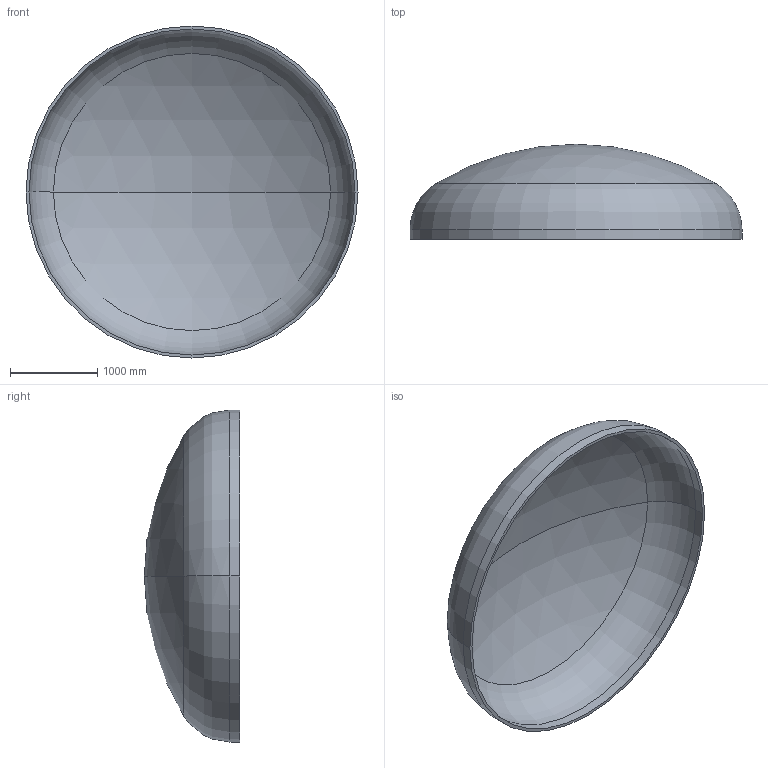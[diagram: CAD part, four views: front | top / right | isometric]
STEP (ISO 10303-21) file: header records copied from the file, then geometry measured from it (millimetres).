
FILE_DESCRIPTION (( 'STEP AP203' ), '1' );
FILE_NAME ('DIN 28013 Korbbogenform_-_Boden DIN 28013 - 3800 x 110 - I - s=34.step', '2016-07-01T21:18:24', ( '' ), ( '' ), 'SwSTEP 2.0', 'SolidWorks 2013', '' );
FILE_SCHEMA (( 'CONFIG_CONTROL_DESIGN' ));
Length unit declared in the file: millimetre
Products named in the file (1): DIN 28013 Korbbogenform_-_Boden DIN 28013 - 3800 x 110 - I - s=34
Bounding box: 3800 x 1089.71 x 3800 mm (x, y, z)
Volume: 571982050.7 mm3; surface area: 34050673.7 mm2
Topology: 1 solids, 1 shells, 13 faces, 24 edges, 14 vertices
Faces by surface type: torus 4, cylinder 4, sphere 4, plane 1
Entity records: 407 total; most frequent: DIRECTION 72, CARTESIAN_POINT 52, ORIENTED_EDGE 48, AXIS2_PLACEMENT_3D 34, EDGE_CURVE 24, CIRCLE 20, VERTEX_POINT 14, EDGE_LOOP 14
